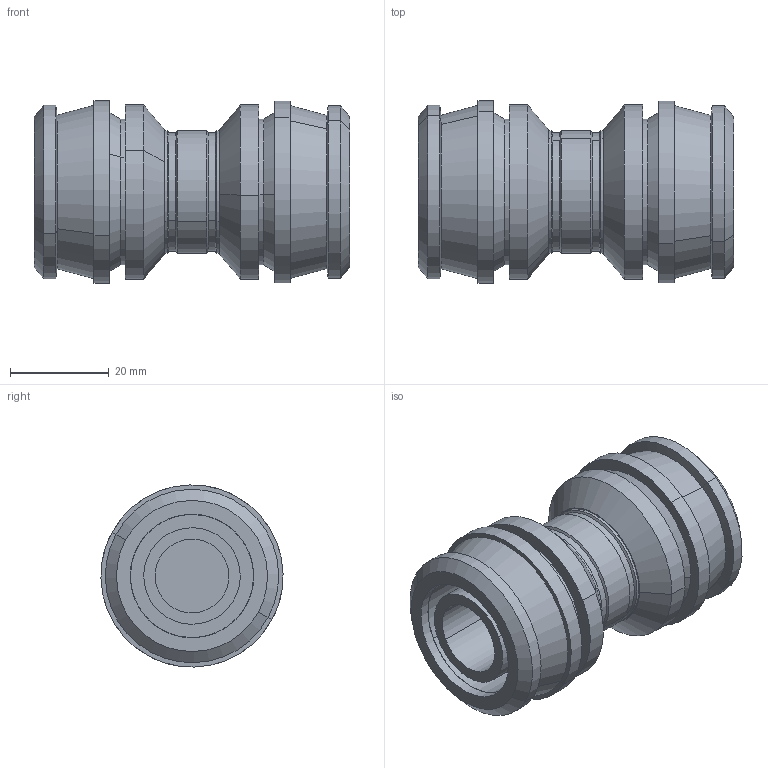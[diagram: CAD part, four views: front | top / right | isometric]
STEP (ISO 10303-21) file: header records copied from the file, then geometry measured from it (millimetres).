
FILE_DESCRIPTION(('STEP AP214'),'1');
FILE_NAME('pim0004779.stp','2017-02-09T10:14:21',('cad-pim'),('TransMagic, Inc.'),'TMR12sp0','TransMagic R12',' ');
FILE_SCHEMA(('AUTOMOTIVE_DESIGN'));
Length unit declared in the file: millimetre
Products named in the file (1): pim0004779 (1)
Bounding box: 64 x 36.99 x 36.99 mm (x, y, z)
Volume: 37099.9 mm3; surface area: 17549.5 mm2
Topology: 1 solids, 1 shells, 90 faces, 178 edges, 104 vertices
Faces by surface type: bspline 90
Entity records: 4718 total; most frequent: CARTESIAN_POINT 1087, ORIENTED_EDGE 356, STYLED_ITEM 349, PRESENTATION_STYLE_ASSIGNMENT 349, COLOUR_RGB 349, DIRECTION 284, EDGE_CURVE 178, CURVE_STYLE 166
